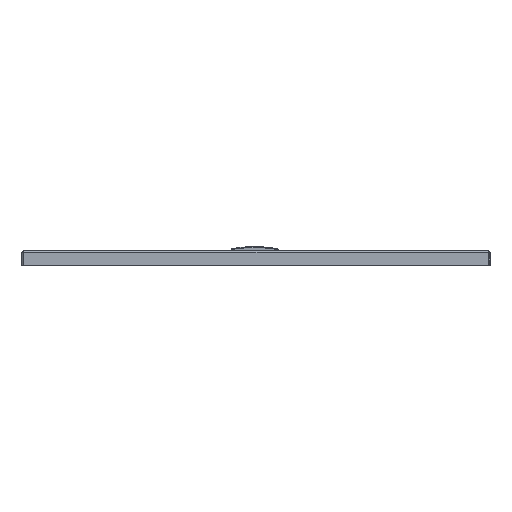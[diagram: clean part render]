
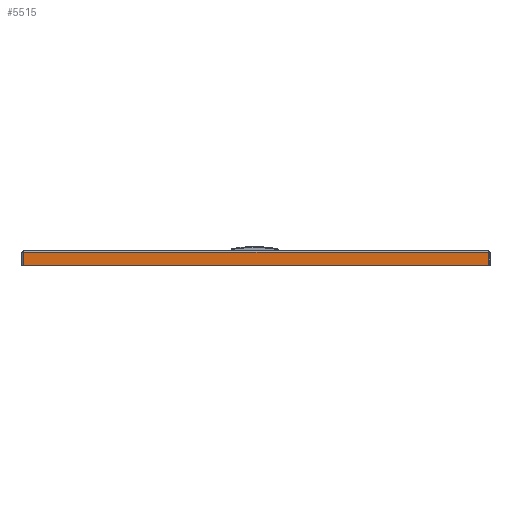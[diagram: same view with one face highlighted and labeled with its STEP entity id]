
A CAD part, left-side view. The second image highlights one B-rep face of the part: STEP entity #5515.
In plain terms, the highlighted planar face has unit normal (-1, 0, 0).
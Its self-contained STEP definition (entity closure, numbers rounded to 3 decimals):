
#405 = VERTEX_POINT ( 'NONE', #4982 ) ;
#586 = EDGE_LOOP ( 'NONE', ( #4461, #1846, #3754, #2889 ) ) ;
#609 = DIRECTION ( 'NONE',  ( 0., 0., -1. ) ) ;
#621 = VERTEX_POINT ( 'NONE', #1026 ) ;
#758 = VECTOR ( 'NONE', #1700, 1000. ) ;
#1026 = CARTESIAN_POINT ( 'NONE',  ( -397.5, -295.97, -17. ) ) ;
#1390 = CARTESIAN_POINT ( 'NONE',  ( -397.5, 298., 1.5 ) ) ;
#1486 = EDGE_CURVE ( 'NONE', #3439, #2859, #5100, .T. ) ;
#1642 = CARTESIAN_POINT ( 'NONE',  ( -397.5, 295.97, -17. ) ) ;
#1700 = DIRECTION ( 'NONE',  ( 0., 1., 0. ) ) ;
#1737 = AXIS2_PLACEMENT_3D ( 'NONE', #1390, #5045, #1946 ) ;
#1846 = ORIENTED_EDGE ( 'NONE', *, *, #1486, .T. ) ;
#1891 = LINE ( 'NONE', #4433, #2070 ) ;
#1946 = DIRECTION ( 'NONE',  ( 0., 1., 0. ) ) ;
#1975 = CARTESIAN_POINT ( 'NONE',  ( -397.5, 298., -17. ) ) ;
#2070 = VECTOR ( 'NONE', #5852, 1000. ) ;
#2363 = VECTOR ( 'NONE', #609, 1000. ) ;
#2417 = CARTESIAN_POINT ( 'NONE',  ( -397.5, 295.97, -0.53 ) ) ;
#2808 = CARTESIAN_POINT ( 'NONE',  ( -397.5, 298., -0.53 ) ) ;
#2859 = VERTEX_POINT ( 'NONE', #1642 ) ;
#2889 = ORIENTED_EDGE ( 'NONE', *, *, #5400, .T. ) ;
#3439 = VERTEX_POINT ( 'NONE', #2417 ) ;
#3532 = EDGE_CURVE ( 'NONE', #2859, #621, #5380, .T. ) ;
#3754 = ORIENTED_EDGE ( 'NONE', *, *, #3532, .T. ) ;
#3861 = CARTESIAN_POINT ( 'NONE',  ( -397.5, 295.97, 1.5 ) ) ;
#3903 = FACE_OUTER_BOUND ( 'NONE', #586, .T. ) ;
#4082 = VECTOR ( 'NONE', #6495, 1000. ) ;
#4433 = CARTESIAN_POINT ( 'NONE',  ( -397.5, -295.97, 1.5 ) ) ;
#4461 = ORIENTED_EDGE ( 'NONE', *, *, #5857, .T. ) ;
#4558 = PLANE ( 'NONE',  #1737 ) ;
#4982 = CARTESIAN_POINT ( 'NONE',  ( -397.5, -295.97, -0.53 ) ) ;
#5045 = DIRECTION ( 'NONE',  ( 1., 0., 0. ) ) ;
#5100 = LINE ( 'NONE', #3861, #2363 ) ;
#5380 = LINE ( 'NONE', #1975, #4082 ) ;
#5400 = EDGE_CURVE ( 'NONE', #621, #405, #1891, .T. ) ;
#5515 = ADVANCED_FACE ( 'NONE', ( #3903 ), #4558, .F. ) ;
#5852 = DIRECTION ( 'NONE',  ( 0., 0., 1. ) ) ;
#5857 = EDGE_CURVE ( 'NONE', #405, #3439, #5933, .T. ) ;
#5933 = LINE ( 'NONE', #2808, #758 ) ;
#6495 = DIRECTION ( 'NONE',  ( 0., -1., 0. ) ) ;
